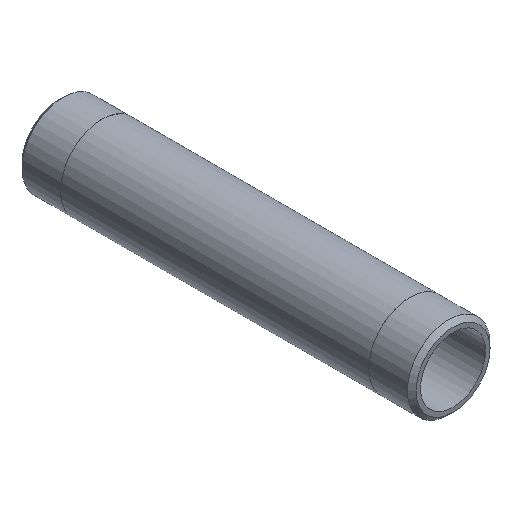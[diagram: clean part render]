
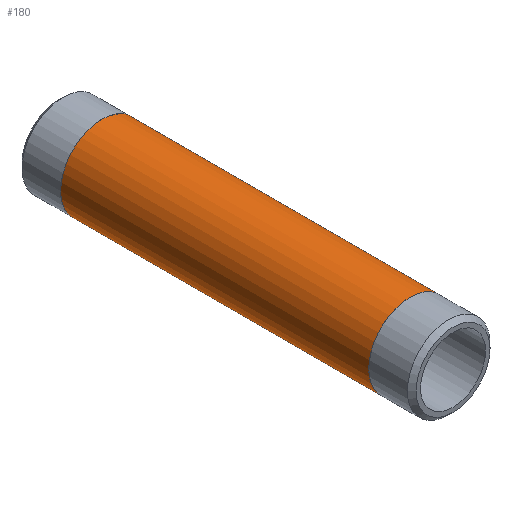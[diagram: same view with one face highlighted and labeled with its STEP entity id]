
A CAD part, isometric view. The second image highlights one B-rep face of the part: STEP entity #180.
In plain terms, the highlighted cylindrical face has radius 13.335 mm (diameter 26.67 mm), a full revolution.
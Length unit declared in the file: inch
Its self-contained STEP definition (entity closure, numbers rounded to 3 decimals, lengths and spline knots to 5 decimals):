
#25=CYLINDRICAL_SURFACE('',#220,0.525);
#34=FACE_OUTER_BOUND('',#47,.T.);
#47=EDGE_LOOP('',(#155,#156,#157,#158,#159,#160));
#55=LINE('',#338,#61);
#61=VECTOR('',#283,0.525);
#77=CIRCLE('',#218,0.525);
#78=CIRCLE('',#219,0.525);
#79=CIRCLE('',#221,0.525);
#80=CIRCLE('',#222,0.525);
#95=VERTEX_POINT('',#329);
#96=VERTEX_POINT('',#330);
#97=VERTEX_POINT('',#334);
#98=VERTEX_POINT('',#335);
#117=EDGE_CURVE('',#95,#96,#77,.T.);
#118=EDGE_CURVE('',#96,#95,#78,.T.);
#119=EDGE_CURVE('',#97,#98,#79,.T.);
#120=EDGE_CURVE('',#98,#97,#80,.T.);
#121=EDGE_CURVE('',#98,#96,#55,.T.);
#155=ORIENTED_EDGE('',*,*,#119,.F.);
#156=ORIENTED_EDGE('',*,*,#120,.F.);
#157=ORIENTED_EDGE('',*,*,#121,.T.);
#158=ORIENTED_EDGE('',*,*,#118,.T.);
#159=ORIENTED_EDGE('',*,*,#117,.T.);
#160=ORIENTED_EDGE('',*,*,#121,.F.);
#180=ADVANCED_FACE('',(#34),#25,.T.);
#218=AXIS2_PLACEMENT_3D('',#331,#273,#274);
#219=AXIS2_PLACEMENT_3D('',#332,#275,#276);
#220=AXIS2_PLACEMENT_3D('',#333,#277,#278);
#221=AXIS2_PLACEMENT_3D('',#336,#279,#280);
#222=AXIS2_PLACEMENT_3D('',#337,#281,#282);
#273=DIRECTION('center_axis',(0.,-1.,0.));
#274=DIRECTION('ref_axis',(1.,0.,0.));
#275=DIRECTION('center_axis',(0.,-1.,0.));
#276=DIRECTION('ref_axis',(1.,0.,0.));
#277=DIRECTION('center_axis',(0.,-1.,0.));
#278=DIRECTION('ref_axis',(0.,0.,-1.));
#279=DIRECTION('center_axis',(0.,-1.,0.));
#280=DIRECTION('ref_axis',(1.,0.,0.));
#281=DIRECTION('center_axis',(0.,-1.,0.));
#282=DIRECTION('ref_axis',(1.,0.,0.));
#283=DIRECTION('',(0.,1.,0.));
#329=CARTESIAN_POINT('',(0.,4.455,-0.525));
#330=CARTESIAN_POINT('',(0.,4.455,0.525));
#331=CARTESIAN_POINT('Origin',(0.,4.455,0.));
#332=CARTESIAN_POINT('Origin',(0.,4.455,0.));
#333=CARTESIAN_POINT('Origin',(0.,2.5,0.));
#334=CARTESIAN_POINT('',(0.,0.545,-0.525));
#335=CARTESIAN_POINT('',(0.,0.545,0.525));
#336=CARTESIAN_POINT('Origin',(0.,0.545,0.));
#337=CARTESIAN_POINT('Origin',(0.,0.545,0.));
#338=CARTESIAN_POINT('',(0.,2.5,0.525));
